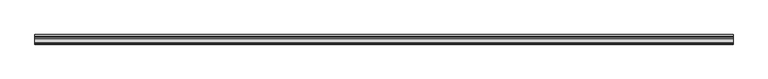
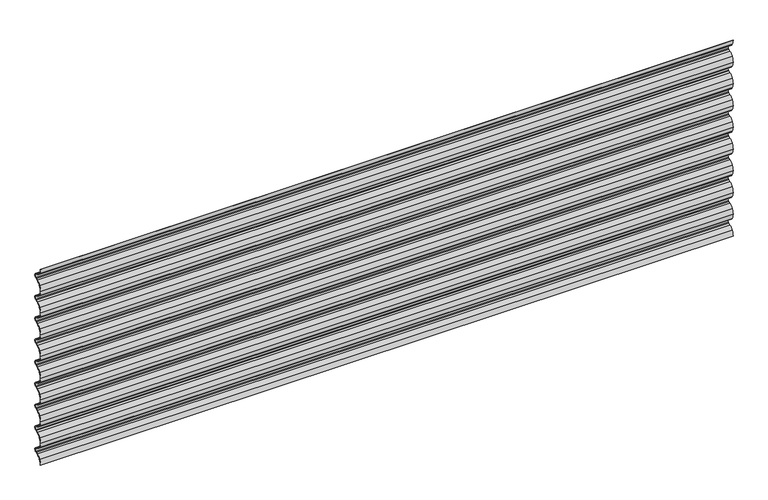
"""IFC4 building model written with IfcOpenShell, lengths in millimetres: plate geometry, Regolare Horizontal 801 : Regolare Horizontal 801."""

from ifc_helpers import new_model, si_unit, point, frame, frame_2d, origin, place, context, project, spatial, polyline, circle_curve, trimmed, segment, composite_curve, outline, extrude, source, transform, mapped, element, save


def plate_37e8111f(model_context):
    return source(origin(), model_context, "Body", "SweptSolid", [
        extrude(outline(composite_curve([segment(trimmed(circle_curve(frame_2d((38.4503244, 0.0)), 37.4503244), [point((6.5021495, 19.5407501))], [point((1.0, 0.0))], True, "CARTESIAN"), True, "CONTINUOUS"), segment(polyline([(1.0, 0.0), (0.0, 0.0)]), True, "CONTINUOUS"), segment(trimmed(circle_curve(frame_2d((38.4503244, 0.0)), 38.4503244), [point((0.0, 0.0))], [point((5.6490681, 20.062528))], False, "CARTESIAN"), True, "CONTINUOUS"), segment(trimmed(circle_curve(frame_2d((32.6206681, 3.5656452)), 31.6166783), [point((5.6490681, 20.062528))], [point((20.878867, 32.9211295))], False, "CARTESIAN"), True, "CONTINUOUS"), segment(polyline([(20.878867, 32.9211295), (28.0423924, 35.7903512), (31.4771017, 37.4367049)]), True, "CONTINUOUS"), segment(trimmed(circle_curve(frame_2d((28.0791236, 44.5257445)), 7.8613445), [point((31.4771017, 37.4367049))], [point((35.9404682, 44.5257445))], True, "CARTESIAN"), True, "CONTINUOUS"), segment(trimmed(circle_curve(frame_2d((28.0791236, 44.5257445)), 7.8613445), [point((35.9404682, 44.5257445))], [point((31.4771017, 51.6147842))], True, "CARTESIAN"), True, "CONTINUOUS"), segment(polyline([(31.4771017, 51.6147842), (28.0423924, 53.2611379), (20.878867, 56.1303596)]), True, "CONTINUOUS"), segment(trimmed(circle_curve(frame_2d((32.6206681, 85.4858438)), 31.6166783), [point((20.878867, 56.1303596))], [point((5.6490681, 68.9889611))], False, "CARTESIAN"), True, "CONTINUOUS"), segment(trimmed(circle_curve(frame_2d((38.4503244, 89.0514891)), 38.4503244), [point((5.6490681, 68.9889611))], [point((0.0, 89.0514891))], False, "CARTESIAN"), True, "CONTINUOUS"), segment(trimmed(circle_curve(frame_2d((38.4503244, 89.0514891)), 38.4503244), [point((0.0, 89.0514891))], [point((5.6490681, 109.1140171))], False, "CARTESIAN"), True, "CONTINUOUS"), segment(trimmed(circle_curve(frame_2d((32.6206681, 92.6171343)), 31.6166783), [point((5.6490681, 109.1140171))], [point((20.878867, 121.9726185))], False, "CARTESIAN"), True, "CONTINUOUS"), segment(polyline([(20.878867, 121.9726185), (28.0423924, 124.8418403), (31.4771017, 126.488194)]), True, "CONTINUOUS"), segment(trimmed(circle_curve(frame_2d((28.0791236, 133.5772336)), 7.8613445), [point((31.4771017, 126.488194))], [point((31.4771017, 140.6662733))], True, "CARTESIAN"), True, "CONTINUOUS"), segment(polyline([(31.4771017, 140.6662733), (28.0423924, 142.312627), (20.878867, 145.1818487)]), True, "CONTINUOUS"), segment(trimmed(circle_curve(frame_2d((32.6206681, 174.5373329)), 31.6166783), [point((20.878867, 145.1818487))], [point((5.6490681, 158.0404502))], False, "CARTESIAN"), True, "CONTINUOUS"), segment(trimmed(circle_curve(frame_2d((38.4503244, 178.1029782)), 38.4503244), [point((5.6490681, 158.0404502))], [point((0.0, 178.1029782))], False, "CARTESIAN"), True, "CONTINUOUS"), segment(trimmed(circle_curve(frame_2d((38.4503244, 178.1029782)), 38.4503244), [point((0.0, 178.1029782))], [point((5.6490681, 198.1655062))], False, "CARTESIAN"), True, "CONTINUOUS"), segment(trimmed(circle_curve(frame_2d((32.6206681, 181.6686234)), 31.6166783), [point((5.6490681, 198.1655062))], [point((20.878867, 211.0241076))], False, "CARTESIAN"), True, "CONTINUOUS"), segment(polyline([(20.878867, 211.0241076), (28.0423924, 213.8933293), (31.4771017, 215.5396831)]), True, "CONTINUOUS"), segment(trimmed(circle_curve(frame_2d((28.0791236, 222.6287227)), 7.8613445), [point((31.4771017, 215.5396831))], [point((31.4771017, 229.7177623))], True, "CARTESIAN"), True, "CONTINUOUS"), segment(polyline([(31.4771017, 229.7177623), (28.0423924, 231.3641161), (20.878867, 234.2333378)]), True, "CONTINUOUS"), segment(trimmed(circle_curve(frame_2d((32.6206681, 263.588822)), 31.6166783), [point((20.878867, 234.2333378))], [point((5.6490681, 247.0919392))], False, "CARTESIAN"), True, "CONTINUOUS"), segment(trimmed(circle_curve(frame_2d((38.4503244, 267.1544672)), 38.4503244), [point((5.6490681, 247.0919392))], [point((0.0, 267.1544672))], False, "CARTESIAN"), True, "CONTINUOUS"), segment(trimmed(circle_curve(frame_2d((38.4503244, 267.1544672)), 38.4503244), [point((0.0, 267.1544672))], [point((5.6490681, 287.2169952))], False, "CARTESIAN"), True, "CONTINUOUS"), segment(trimmed(circle_curve(frame_2d((32.6206681, 270.7201125)), 31.6166783), [point((5.6490681, 287.2169952))], [point((20.878867, 300.0755967))], False, "CARTESIAN"), True, "CONTINUOUS"), segment(polyline([(20.878867, 300.0755967), (28.0423924, 302.9448184), (31.4771017, 304.5911721)]), True, "CONTINUOUS"), segment(trimmed(circle_curve(frame_2d((28.0791236, 311.6802118)), 7.8613445), [point((31.4771017, 304.5911721))], [point((31.4771017, 318.7692514))], True, "CARTESIAN"), True, "CONTINUOUS"), segment(polyline([(31.4771017, 318.7692514), (28.0423924, 320.4156051), (20.878867, 323.2848269)]), True, "CONTINUOUS"), segment(trimmed(circle_curve(frame_2d((32.6206681, 352.6403111)), 31.6166783), [point((20.878867, 323.2848269))], [point((5.6490681, 336.1434283))], False, "CARTESIAN"), True, "CONTINUOUS"), segment(trimmed(circle_curve(frame_2d((38.4503244, 356.2059563)), 38.4503244), [point((5.6490681, 336.1434283))], [point((0.0, 356.2059563))], False, "CARTESIAN"), True, "CONTINUOUS"), segment(trimmed(circle_curve(frame_2d((38.4503244, 356.2059563)), 38.4503244), [point((0.0, 356.2059563))], [point((5.6490681, 376.2684843))], False, "CARTESIAN"), True, "CONTINUOUS"), segment(trimmed(circle_curve(frame_2d((32.6206681, 359.7716016)), 31.6166783), [point((5.6490681, 376.2684843))], [point((20.878867, 389.1270858))], False, "CARTESIAN"), True, "CONTINUOUS"), segment(polyline([(20.878867, 389.1270858), (28.0423924, 391.9963075), (31.4771017, 393.6426612)]), True, "CONTINUOUS"), segment(trimmed(circle_curve(frame_2d((28.0791236, 400.7317009)), 7.8613445), [point((31.4771017, 393.6426612))], [point((31.4771017, 407.8207405))], True, "CARTESIAN"), True, "CONTINUOUS"), segment(polyline([(31.4771017, 407.8207405), (28.0423924, 409.4670942), (20.878867, 412.3363159)]), True, "CONTINUOUS"), segment(trimmed(circle_curve(frame_2d((32.6206681, 441.6918002)), 31.6166783), [point((20.878867, 412.3363159))], [point((5.6490681, 425.1949174))], False, "CARTESIAN"), True, "CONTINUOUS"), segment(trimmed(circle_curve(frame_2d((38.4503244, 445.2574454)), 38.4503244), [point((5.6490681, 425.1949174))], [point((0.0, 445.2574454))], False, "CARTESIAN"), True, "CONTINUOUS"), segment(trimmed(circle_curve(frame_2d((38.4503244, 445.2574454)), 38.4503244), [point((0.0, 445.2574454))], [point((5.6490681, 465.3199734))], False, "CARTESIAN"), True, "CONTINUOUS"), segment(trimmed(circle_curve(frame_2d((32.6206681, 448.8230907)), 31.6166783), [point((5.6490681, 465.3199734))], [point((20.878867, 478.1785749))], False, "CARTESIAN"), True, "CONTINUOUS"), segment(polyline([(20.878867, 478.1785749), (28.0423924, 481.0477966), (31.4771017, 482.6941503)]), True, "CONTINUOUS"), segment(trimmed(circle_curve(frame_2d((28.0791236, 489.7831899)), 7.8613445), [point((31.4771017, 482.6941503))], [point((31.4771017, 496.8722296))], True, "CARTESIAN"), True, "CONTINUOUS"), segment(polyline([(31.4771017, 496.8722296), (28.0423924, 498.5185833), (20.878867, 501.387805)]), True, "CONTINUOUS"), segment(trimmed(circle_curve(frame_2d((32.6206681, 530.7432892)), 31.6166783), [point((20.878867, 501.387805))], [point((5.6490681, 514.2464065))], False, "CARTESIAN"), True, "CONTINUOUS"), segment(trimmed(circle_curve(frame_2d((38.4503244, 534.3089345)), 38.4503244), [point((5.6490681, 514.2464065))], [point((0.0, 534.3089345))], False, "CARTESIAN"), True, "CONTINUOUS"), segment(trimmed(circle_curve(frame_2d((38.4503244, 534.3089345)), 38.4503244), [point((0.0, 534.3089345))], [point((5.6490681, 554.3714625))], False, "CARTESIAN"), True, "CONTINUOUS"), segment(trimmed(circle_curve(frame_2d((32.6206681, 537.8745797)), 31.6166783), [point((5.6490681, 554.3714625))], [point((20.878867, 567.2300639))], False, "CARTESIAN"), True, "CONTINUOUS"), segment(polyline([(20.878867, 567.2300639), (28.0423924, 570.0992857), (31.4771017, 571.7456394)]), True, "CONTINUOUS"), segment(trimmed(circle_curve(frame_2d((28.0791236, 578.834679)), 7.8613445), [point((31.4771017, 571.7456394))], [point((31.4771017, 585.9237187))], True, "CARTESIAN"), True, "CONTINUOUS"), segment(polyline([(31.4771017, 585.9237187), (28.0423924, 587.5700724), (20.878867, 590.4392941)]), True, "CONTINUOUS"), segment(trimmed(circle_curve(frame_2d((32.6206681, 619.7947783)), 31.6166783), [point((20.878867, 590.4392941))], [point((5.6490681, 603.2978956))], False, "CARTESIAN"), True, "CONTINUOUS"), segment(trimmed(circle_curve(frame_2d((38.4503244, 623.3604236)), 38.4503244), [point((5.6490681, 603.2978956))], [point((0.0, 623.3604236))], False, "CARTESIAN"), True, "CONTINUOUS"), segment(trimmed(circle_curve(frame_2d((38.4503244, 623.3604236)), 38.4503244), [point((0.0, 623.3604236))], [point((5.6490681, 643.4229516))], False, "CARTESIAN"), True, "CONTINUOUS"), segment(trimmed(circle_curve(frame_2d((32.6206681, 626.9260688)), 31.6166783), [point((5.6490681, 643.4229516))], [point((20.878867, 656.281553))], False, "CARTESIAN"), True, "CONTINUOUS"), segment(polyline([(20.878867, 656.281553), (28.0423924, 659.1507748), (31.4771017, 660.7971285)]), True, "CONTINUOUS"), segment(trimmed(circle_curve(frame_2d((28.0791236, 667.8861681)), 7.8613445), [point((31.4771017, 660.7971285))], [point((31.4771017, 674.9752077))], True, "CARTESIAN"), True, "CONTINUOUS"), segment(polyline([(31.4771017, 674.9752077), (28.0423924, 676.6215615), (20.878867, 679.4907832)]), True, "CONTINUOUS"), segment(trimmed(circle_curve(frame_2d((32.6206681, 708.8462674)), 31.6166783), [point((20.878867, 679.4907832))], [point((5.6490681, 692.3493846))], False, "CARTESIAN"), True, "CONTINUOUS"), segment(trimmed(circle_curve(frame_2d((38.4503244, 712.4119126)), 38.4503244), [point((5.6490681, 692.3493846))], [point((0.0, 712.4119126))], False, "CARTESIAN"), True, "CONTINUOUS"), segment(trimmed(circle_curve(frame_2d((38.4503244, 712.4119126)), 38.4503244), [point((0.0, 712.4119126))], [point((5.6490681, 732.4744406))], False, "CARTESIAN"), True, "CONTINUOUS"), segment(trimmed(circle_curve(frame_2d((32.6206681, 715.9775579)), 31.6166783), [point((5.6490681, 732.4744406))], [point((20.878867, 745.3330421))], False, "CARTESIAN"), True, "CONTINUOUS"), segment(polyline([(20.878867, 745.3330421), (28.0423924, 748.2022638), (31.4771017, 749.8486175)]), True, "CONTINUOUS"), segment(trimmed(circle_curve(frame_2d((28.0791236, 756.9376572)), 7.8613445), [point((31.4771017, 749.8486175))], [point((31.4771017, 764.0266968))], True, "CARTESIAN"), True, "CONTINUOUS"), segment(polyline([(31.4771017, 764.0266968), (28.0423924, 765.6730505), (20.878867, 768.5422723)]), True, "CONTINUOUS"), segment(trimmed(circle_curve(frame_2d((32.6206681, 797.8977565)), 31.6166783), [point((20.878867, 768.5422723))], [point((5.6490681, 781.4008737))], False, "CARTESIAN"), True, "CONTINUOUS"), segment(trimmed(circle_curve(frame_2d((38.4503244, 801.4634017)), 38.4503244), [point((5.6490681, 781.4008737))], [point((0.0, 801.4634017))], False, "CARTESIAN"), True, "CONTINUOUS"), segment(polyline([(0.0, 801.4634017), (1.0, 801.4634017)]), True, "CONTINUOUS"), segment(trimmed(circle_curve(frame_2d((38.4503244, 801.4634017)), 37.4503244), [point((1.0, 801.4634017))], [point((6.5021495, 781.9226516))], True, "CARTESIAN"), True, "CONTINUOUS"), segment(trimmed(circle_curve(frame_2d((32.6206681, 797.8977565)), 30.6166783), [point((6.5021495, 781.9226516))], [point((21.2504634, 769.4706666))], True, "CARTESIAN"), True, "CONTINUOUS"), segment(polyline([(21.2504634, 769.4706666), (28.4448583, 766.5890807), (31.9093405, 764.928456)]), True, "CONTINUOUS"), segment(trimmed(circle_curve(frame_2d((28.0791236, 756.9376572)), 8.8613445), [point((31.9093405, 764.928456))], [point((31.9093405, 748.9468584))], False, "CARTESIAN"), True, "CONTINUOUS"), segment(polyline([(31.9093405, 748.9468584), (28.4448583, 747.2862336), (21.2504634, 744.4046477)]), True, "CONTINUOUS"), segment(trimmed(circle_curve(frame_2d((32.6206681, 715.9775579)), 30.6166783), [point((21.2504634, 744.4046477))], [point((6.5021495, 731.9526628))], True, "CARTESIAN"), True, "CONTINUOUS"), segment(trimmed(circle_curve(frame_2d((38.4503244, 712.4119126)), 37.4503244), [point((6.5021495, 731.9526628))], [point((1.0, 712.4119126))], True, "CARTESIAN"), True, "CONTINUOUS"), segment(trimmed(circle_curve(frame_2d((38.4503244, 712.4119126)), 37.4503244), [point((1.0, 712.4119126))], [point((6.5021495, 692.8711625))], True, "CARTESIAN"), True, "CONTINUOUS"), segment(trimmed(circle_curve(frame_2d((32.6206681, 708.8462674)), 30.6166783), [point((6.5021495, 692.8711625))], [point((21.2504634, 680.4191776))], True, "CARTESIAN"), True, "CONTINUOUS"), segment(polyline([(21.2504634, 680.4191776), (28.4448583, 677.5375917), (31.9093405, 675.8769669)]), True, "CONTINUOUS"), segment(trimmed(circle_curve(frame_2d((28.0791236, 667.8861681)), 8.8613445), [point((31.9093405, 675.8769669))], [point((31.9093405, 659.8953693))], False, "CARTESIAN"), True, "CONTINUOUS"), segment(polyline([(31.9093405, 659.8953693), (28.4448583, 658.2347446), (21.2504634, 655.3531587)]), True, "CONTINUOUS"), segment(trimmed(circle_curve(frame_2d((32.6206681, 626.9260688)), 30.6166783), [point((21.2504634, 655.3531587))], [point((6.5021495, 642.9011737))], True, "CARTESIAN"), True, "CONTINUOUS"), segment(trimmed(circle_curve(frame_2d((38.4503244, 623.3604236)), 37.4503244), [point((6.5021495, 642.9011737))], [point((1.0, 623.3604236))], True, "CARTESIAN"), True, "CONTINUOUS"), segment(trimmed(circle_curve(frame_2d((38.4503244, 623.3604236)), 37.4503244), [point((1.0, 623.3604236))], [point((6.5021495, 603.8196734))], True, "CARTESIAN"), True, "CONTINUOUS"), segment(trimmed(circle_curve(frame_2d((32.6206681, 619.7947783)), 30.6166783), [point((6.5021495, 603.8196734))], [point((21.2504634, 591.3676885))], True, "CARTESIAN"), True, "CONTINUOUS"), segment(polyline([(21.2504634, 591.3676885), (28.4448583, 588.4861026), (31.9093405, 586.8254778)]), True, "CONTINUOUS"), segment(trimmed(circle_curve(frame_2d((28.0791236, 578.834679)), 8.8613445), [point((31.9093405, 586.8254778))], [point((31.9093405, 570.8438802))], False, "CARTESIAN"), True, "CONTINUOUS"), segment(polyline([(31.9093405, 570.8438802), (28.4448583, 569.1832555), (21.2504634, 566.3016696)]), True, "CONTINUOUS"), segment(trimmed(circle_curve(frame_2d((32.6206681, 537.8745797)), 30.6166783), [point((21.2504634, 566.3016696))], [point((6.5021495, 553.8496846))], True, "CARTESIAN"), True, "CONTINUOUS"), segment(trimmed(circle_curve(frame_2d((38.4503244, 534.3089345)), 37.4503244), [point((6.5021495, 553.8496846))], [point((1.0, 534.3089345))], True, "CARTESIAN"), True, "CONTINUOUS"), segment(trimmed(circle_curve(frame_2d((38.4503244, 534.3089345)), 37.4503244), [point((1.0, 534.3089345))], [point((6.5021495, 514.7681843))], True, "CARTESIAN"), True, "CONTINUOUS"), segment(trimmed(circle_curve(frame_2d((32.6206681, 530.7432892)), 30.6166783), [point((6.5021495, 514.7681843))], [point((21.2504634, 502.3161994))], True, "CARTESIAN"), True, "CONTINUOUS"), segment(polyline([(21.2504634, 502.3161994), (28.4448583, 499.4346135), (31.9093405, 497.7739888)]), True, "CONTINUOUS"), segment(trimmed(circle_curve(frame_2d((28.0791236, 489.7831899)), 8.8613445), [point((31.9093405, 497.7739888))], [point((31.9093405, 481.7923911))], False, "CARTESIAN"), True, "CONTINUOUS"), segment(polyline([(31.9093405, 481.7923911), (28.4448583, 480.1317664), (21.2504634, 477.2501805)]), True, "CONTINUOUS"), segment(trimmed(circle_curve(frame_2d((32.6206681, 448.8230907)), 30.6166783), [point((21.2504634, 477.2501805))], [point((6.5021495, 464.7981955))], True, "CARTESIAN"), True, "CONTINUOUS"), segment(trimmed(circle_curve(frame_2d((38.4503244, 445.2574454)), 37.4503244), [point((6.5021495, 464.7981955))], [point((1.0, 445.2574454))], True, "CARTESIAN"), True, "CONTINUOUS"), segment(trimmed(circle_curve(frame_2d((38.4503244, 445.2574454)), 37.4503244), [point((1.0, 445.2574454))], [point((6.5021495, 425.7166953))], True, "CARTESIAN"), True, "CONTINUOUS"), segment(trimmed(circle_curve(frame_2d((32.6206681, 441.6918002)), 30.6166783), [point((6.5021495, 425.7166953))], [point((21.2504634, 413.2647103))], True, "CARTESIAN"), True, "CONTINUOUS"), segment(polyline([(21.2504634, 413.2647103), (28.4448583, 410.3831244), (31.9093405, 408.7224997)]), True, "CONTINUOUS"), segment(trimmed(circle_curve(frame_2d((28.0791236, 400.7317009)), 8.8613445), [point((31.9093405, 408.7224997))], [point((31.9093405, 392.740902))], False, "CARTESIAN"), True, "CONTINUOUS"), segment(polyline([(31.9093405, 392.740902), (28.4448583, 391.0802773), (21.2504634, 388.1986914)]), True, "CONTINUOUS"), segment(trimmed(circle_curve(frame_2d((32.6206681, 359.7716016)), 30.6166783), [point((21.2504634, 388.1986914))], [point((6.5021495, 375.7467065))], True, "CARTESIAN"), True, "CONTINUOUS"), segment(trimmed(circle_curve(frame_2d((38.4503244, 356.2059563)), 37.4503244), [point((6.5021495, 375.7467065))], [point((1.0, 356.2059563))], True, "CARTESIAN"), True, "CONTINUOUS"), segment(trimmed(circle_curve(frame_2d((38.4503244, 356.2059563)), 37.4503244), [point((1.0, 356.2059563))], [point((6.5021495, 336.6652062))], True, "CARTESIAN"), True, "CONTINUOUS"), segment(trimmed(circle_curve(frame_2d((32.6206681, 352.6403111)), 30.6166783), [point((6.5021495, 336.6652062))], [point((21.2504634, 324.2132212))], True, "CARTESIAN"), True, "CONTINUOUS"), segment(polyline([(21.2504634, 324.2132212), (28.4448583, 321.3316353), (31.9093405, 319.6710106)]), True, "CONTINUOUS"), segment(trimmed(circle_curve(frame_2d((28.0791236, 311.6802118)), 8.8613445), [point((31.9093405, 319.6710106))], [point((31.9093405, 303.689413))], False, "CARTESIAN"), True, "CONTINUOUS"), segment(polyline([(31.9093405, 303.689413), (28.4448583, 302.0287882), (21.2504634, 299.1472023)]), True, "CONTINUOUS"), segment(trimmed(circle_curve(frame_2d((32.6206681, 270.7201125)), 30.6166783), [point((21.2504634, 299.1472023))], [point((6.5021495, 286.6952174))], True, "CARTESIAN"), True, "CONTINUOUS"), segment(trimmed(circle_curve(frame_2d((38.4503244, 267.1544672)), 37.4503244), [point((6.5021495, 286.6952174))], [point((1.0, 267.1544672))], True, "CARTESIAN"), True, "CONTINUOUS"), segment(trimmed(circle_curve(frame_2d((38.4503244, 267.1544672)), 37.4503244), [point((1.0, 267.1544672))], [point((6.5021495, 247.6137171))], True, "CARTESIAN"), True, "CONTINUOUS"), segment(trimmed(circle_curve(frame_2d((32.6206681, 263.588822)), 30.6166783), [point((6.5021495, 247.6137171))], [point((21.2504634, 235.1617322))], True, "CARTESIAN"), True, "CONTINUOUS"), segment(polyline([(21.2504634, 235.1617322), (28.4448583, 232.2801463), (31.9093405, 230.6195215)]), True, "CONTINUOUS"), segment(trimmed(circle_curve(frame_2d((28.0791236, 222.6287227)), 8.8613445), [point((31.9093405, 230.6195215))], [point((31.9093405, 214.6379239))], False, "CARTESIAN"), True, "CONTINUOUS"), segment(polyline([(31.9093405, 214.6379239), (28.4448583, 212.9772992), (21.2504634, 210.0957133)]), True, "CONTINUOUS"), segment(trimmed(circle_curve(frame_2d((32.6206681, 181.6686234)), 30.6166783), [point((21.2504634, 210.0957133))], [point((6.5021495, 197.6437283))], True, "CARTESIAN"), True, "CONTINUOUS"), segment(trimmed(circle_curve(frame_2d((38.4503244, 178.1029782)), 37.4503244), [point((6.5021495, 197.6437283))], [point((1.0, 178.1029782))], True, "CARTESIAN"), True, "CONTINUOUS"), segment(trimmed(circle_curve(frame_2d((38.4503244, 178.1029782)), 37.4503244), [point((1.0, 178.1029782))], [point((6.5021495, 158.562228))], True, "CARTESIAN"), True, "CONTINUOUS"), segment(trimmed(circle_curve(frame_2d((32.6206681, 174.5373329)), 30.6166783), [point((6.5021495, 158.562228))], [point((21.2504634, 146.1102431))], True, "CARTESIAN"), True, "CONTINUOUS"), segment(polyline([(21.2504634, 146.1102431), (28.4448583, 143.2286572), (31.9093405, 141.5680324)]), True, "CONTINUOUS"), segment(trimmed(circle_curve(frame_2d((28.0791236, 133.5772336)), 8.8613445), [point((31.9093405, 141.5680324))], [point((31.9093405, 125.5864348))], False, "CARTESIAN"), True, "CONTINUOUS"), segment(polyline([(31.9093405, 125.5864348), (28.4448583, 123.9258101), (21.2504634, 121.0442242)]), True, "CONTINUOUS"), segment(trimmed(circle_curve(frame_2d((32.6206681, 92.6171343)), 30.6166783), [point((21.2504634, 121.0442242))], [point((6.5021495, 108.5922392))], True, "CARTESIAN"), True, "CONTINUOUS"), segment(trimmed(circle_curve(frame_2d((38.4503244, 89.0514891)), 37.4503244), [point((6.5021495, 108.5922392))], [point((1.0, 89.0514891))], True, "CARTESIAN"), True, "CONTINUOUS"), segment(trimmed(circle_curve(frame_2d((38.4503244, 89.0514891)), 37.4503244), [point((1.0, 89.0514891))], [point((6.5021495, 69.5107389))], True, "CARTESIAN"), True, "CONTINUOUS"), segment(trimmed(circle_curve(frame_2d((32.6206681, 85.4858438)), 30.6166783), [point((6.5021495, 69.5107389))], [point((21.2504634, 57.058754))], True, "CARTESIAN"), True, "CONTINUOUS"), segment(polyline([(21.2504634, 57.058754), (28.4448583, 54.1771681), (31.9093405, 52.5165434)]), True, "CONTINUOUS"), segment(trimmed(circle_curve(frame_2d((28.0791236, 44.5257445)), 8.8613445), [point((31.9093405, 52.5165434))], [point((36.9404682, 44.5257445))], False, "CARTESIAN"), True, "CONTINUOUS"), segment(trimmed(circle_curve(frame_2d((28.0791236, 44.5257445)), 8.8613445), [point((36.9404682, 44.5257445))], [point((31.9093405, 36.5349457))], False, "CARTESIAN"), True, "CONTINUOUS"), segment(polyline([(31.9093405, 36.5349457), (28.4448583, 34.874321), (21.2504634, 31.9927351)]), True, "CONTINUOUS"), segment(trimmed(circle_curve(frame_2d((32.6206681, 3.5656452)), 30.6166783), [point((21.2504634, 31.9927351))], [point((6.5021495, 19.5407501))], True, "CARTESIAN"), True, "CONTINUOUS")], self_intersect=False)), frame((-1340.8345414, 0.0, 0.0), z_axis=(1.0, 0.0, 0.0), x_axis=(0.0, 1.0, 0.0)), (0.0, 0.0, 1.0), 2681.6690827),
    ])


if __name__ == "__main__":
    model = new_model("IFC4")
    model_context = context("Model", 3, world=origin())
    ifc_project = project(units=[si_unit("LENGTHUNIT", "METRE", prefix="MILLI")], contexts=[model_context])
    site = spatial("IfcSite", under=ifc_project)
    building = spatial("IfcBuilding", under=site)
    placement = place(None, origin())
    plate_shape = plate_37e8111f(model_context)
    element("IfcPlate", 1, ObjectType="Regolare Horizontal 801 : Regolare Horizontal 801", at=placement, inside=building, context=model_context, shape_type="MappedRepresentation", body=[
        mapped(plate_shape, transform((0.0, 0.0, 0.0), x_axis=(1.0, 0.0, 0.0), y_axis=(0.0, 1.0, 0.0), z_axis=(0.0, 0.0, 1.0))),
    ])
    save(model, "model.ifc")
